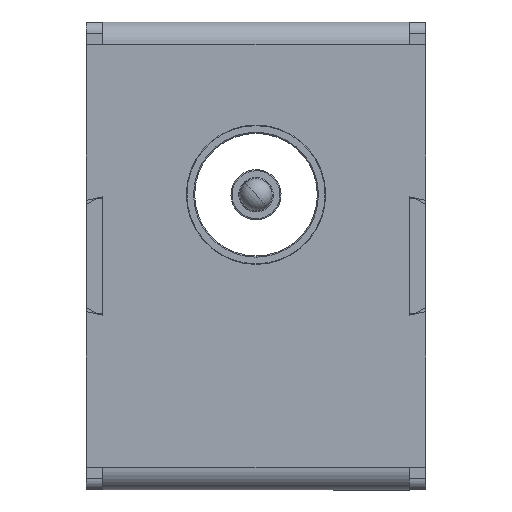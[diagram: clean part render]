
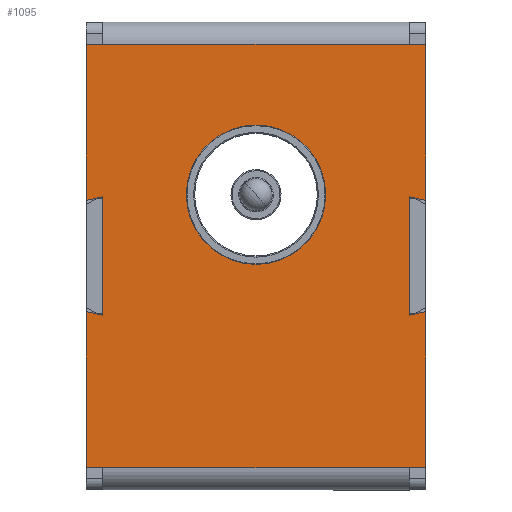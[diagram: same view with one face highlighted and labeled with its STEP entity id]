
A CAD part, left-side view. The second image highlights one B-rep face of the part: STEP entity #1095.
In plain terms, the highlighted planar face has unit normal (-1, 0, 0).
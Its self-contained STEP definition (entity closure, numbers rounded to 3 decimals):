
#7 = AXIS2_PLACEMENT_3D ( 'NONE', #7465, #2080, #4492 ) ;
#26 = VECTOR ( 'NONE', #4473, 1000. ) ;
#55 = DIRECTION ( 'NONE',  ( 0., -0.981, 0.196 ) ) ;
#212 = VECTOR ( 'NONE', #3106, 1000. ) ;
#216 = CARTESIAN_POINT ( 'NONE',  ( -37.307, -4.046, 6.5 ) ) ;
#408 = DIRECTION ( 'NONE',  ( 0., 1., 0. ) ) ;
#417 = VERTEX_POINT ( 'NONE', #7738 ) ;
#422 = EDGE_CURVE ( 'NONE', #417, #2800, #1431, .T. ) ;
#569 = VERTEX_POINT ( 'NONE', #8707 ) ;
#637 = CARTESIAN_POINT ( 'NONE',  ( -37.307, -17.796, -4.3 ) ) ;
#665 = VERTEX_POINT ( 'NONE', #2220 ) ;
#686 = VECTOR ( 'NONE', #2285, 1000. ) ;
#736 = LINE ( 'NONE', #4964, #2722 ) ;
#763 = LINE ( 'NONE', #4679, #3356 ) ;
#826 = CARTESIAN_POINT ( 'NONE',  ( -37.307, -19.296, -4. ) ) ;
#1004 = VECTOR ( 'NONE', #4602, 1000. ) ;
#1026 = CARTESIAN_POINT ( 'NONE',  ( -37.307, -19.296, -18. ) ) ;
#1038 = CARTESIAN_POINT ( 'NONE',  ( -37.307, -4.046, 0.25 ) ) ;
#1095 = ADVANCED_FACE ( 'NONE', ( #3324, #6770 ), #3934, .F. ) ;
#1112 = DIRECTION ( 'NONE',  ( 0., -1., 0. ) ) ;
#1194 = LINE ( 'NONE', #6149, #3797 ) ;
#1289 = ORIENTED_EDGE ( 'NONE', *, *, #7303, .F. ) ;
#1328 = CIRCLE ( 'NONE', #6329, 6.25 ) ;
#1431 = LINE ( 'NONE', #5345, #26 ) ;
#1474 = ORIENTED_EDGE ( 'NONE', *, *, #4226, .T. ) ;
#1481 = VERTEX_POINT ( 'NONE', #1026 ) ;
#1589 = LINE ( 'NONE', #7445, #212 ) ;
#1613 = CARTESIAN_POINT ( 'NONE',  ( -37.307, 11.204, -18. ) ) ;
#1617 = EDGE_CURVE ( 'NONE', #665, #8184, #2740, .T. ) ;
#1685 = CARTESIAN_POINT ( 'NONE',  ( -37.307, -19.296, 6. ) ) ;
#1803 = DIRECTION ( 'NONE',  ( 0., 0.981, 0.196 ) ) ;
#2014 = VERTEX_POINT ( 'NONE', #5195 ) ;
#2052 = ORIENTED_EDGE ( 'NONE', *, *, #5726, .T. ) ;
#2080 = DIRECTION ( 'NONE',  ( -1., 0., 0. ) ) ;
#2220 = CARTESIAN_POINT ( 'NONE',  ( -37.307, -19.296, 20. ) ) ;
#2285 = DIRECTION ( 'NONE',  ( 0., 0., -1. ) ) ;
#2323 = EDGE_CURVE ( 'NONE', #5192, #417, #5656, .T. ) ;
#2449 = ORIENTED_EDGE ( 'NONE', *, *, #4673, .T. ) ;
#2493 = DIRECTION ( 'NONE',  ( 0., 0., 1. ) ) ;
#2495 = ORIENTED_EDGE ( 'NONE', *, *, #1617, .F. ) ;
#2573 = VERTEX_POINT ( 'NONE', #1038 ) ;
#2682 = EDGE_CURVE ( 'NONE', #4668, #1481, #736, .T. ) ;
#2722 = VECTOR ( 'NONE', #3618, 1000. ) ;
#2740 = LINE ( 'NONE', #3360, #8774 ) ;
#2800 = VERTEX_POINT ( 'NONE', #5420 ) ;
#2814 = LINE ( 'NONE', #5825, #7000 ) ;
#2815 = EDGE_CURVE ( 'NONE', #8184, #6511, #763, .T. ) ;
#2818 = DIRECTION ( 'NONE',  ( 0., 0., 1. ) ) ;
#2915 = LINE ( 'NONE', #5322, #8567 ) ;
#2938 = VERTEX_POINT ( 'NONE', #3657 ) ;
#3006 = VERTEX_POINT ( 'NONE', #8014 ) ;
#3106 = DIRECTION ( 'NONE',  ( 0., 0., 1. ) ) ;
#3118 = ORIENTED_EDGE ( 'NONE', *, *, #8401, .T. ) ;
#3234 = VERTEX_POINT ( 'NONE', #8835 ) ;
#3240 = VERTEX_POINT ( 'NONE', #637 ) ;
#3319 = DIRECTION ( 'NONE',  ( 0., 1., 0. ) ) ;
#3324 = FACE_OUTER_BOUND ( 'NONE', #8775, .T. ) ;
#3356 = VECTOR ( 'NONE', #1803, 1000. ) ;
#3360 = CARTESIAN_POINT ( 'NONE',  ( -37.307, -19.296, 20. ) ) ;
#3364 = ORIENTED_EDGE ( 'NONE', *, *, #2682, .F. ) ;
#3383 = AXIS2_PLACEMENT_3D ( 'NONE', #6917, #5561, #8949 ) ;
#3618 = DIRECTION ( 'NONE',  ( 0., 0., -1. ) ) ;
#3643 = EDGE_CURVE ( 'NONE', #9170, #569, #4349, .T. ) ;
#3657 = CARTESIAN_POINT ( 'NONE',  ( -37.307, -17.796, 20. ) ) ;
#3797 = VECTOR ( 'NONE', #3319, 1000. ) ;
#3808 = ORIENTED_EDGE ( 'NONE', *, *, #3643, .F. ) ;
#3885 = CARTESIAN_POINT ( 'NONE',  ( -37.307, 9.704, 6.3 ) ) ;
#3922 = ORIENTED_EDGE ( 'NONE', *, *, #8486, .F. ) ;
#3934 = PLANE ( 'NONE',  #3383 ) ;
#3999 = VECTOR ( 'NONE', #55, 1000. ) ;
#4024 = DIRECTION ( 'NONE',  ( -1., 0., 0. ) ) ;
#4226 = EDGE_CURVE ( 'NONE', #2938, #4323, #8330, .T. ) ;
#4323 = VERTEX_POINT ( 'NONE', #4698 ) ;
#4349 = LINE ( 'NONE', #3885, #8053 ) ;
#4473 = DIRECTION ( 'NONE',  ( 0., -0.981, -0.196 ) ) ;
#4492 = DIRECTION ( 'NONE',  ( 0., 0., 1. ) ) ;
#4602 = DIRECTION ( 'NONE',  ( 0., -1., 0. ) ) ;
#4668 = VERTEX_POINT ( 'NONE', #826 ) ;
#4673 = EDGE_CURVE ( 'NONE', #5192, #2014, #5773, .T. ) ;
#4679 = CARTESIAN_POINT ( 'NONE',  ( -37.307, -17.796, 6.3 ) ) ;
#4698 = CARTESIAN_POINT ( 'NONE',  ( -37.307, 9.704, 20. ) ) ;
#4799 = DIRECTION ( 'NONE',  ( 0., 1., 0. ) ) ;
#4879 = EDGE_CURVE ( 'NONE', #2800, #9170, #6719, .T. ) ;
#4902 = VECTOR ( 'NONE', #2818, 1000. ) ;
#4964 = CARTESIAN_POINT ( 'NONE',  ( -37.307, -19.296, -4. ) ) ;
#4980 = VECTOR ( 'NONE', #4799, 1000. ) ;
#5121 = EDGE_CURVE ( 'NONE', #665, #2938, #6279, .T. ) ;
#5192 = VERTEX_POINT ( 'NONE', #8441 ) ;
#5195 = CARTESIAN_POINT ( 'NONE',  ( -37.307, 9.704, -18. ) ) ;
#5322 = CARTESIAN_POINT ( 'NONE',  ( -37.307, -17.546, -18. ) ) ;
#5345 = CARTESIAN_POINT ( 'NONE',  ( -37.307, 9.704, -4.3 ) ) ;
#5420 = CARTESIAN_POINT ( 'NONE',  ( -37.307, 9.704, -4.3 ) ) ;
#5428 = CARTESIAN_POINT ( 'NONE',  ( -37.307, -17.796, 6.3 ) ) ;
#5485 = CARTESIAN_POINT ( 'NONE',  ( -37.307, -17.796, -4.3 ) ) ;
#5510 = DIRECTION ( 'NONE',  ( 0., 0.981, -0.196 ) ) ;
#5561 = DIRECTION ( 'NONE',  ( 1., 0., 0. ) ) ;
#5656 = LINE ( 'NONE', #1613, #4902 ) ;
#5714 = VECTOR ( 'NONE', #7847, 1000. ) ;
#5726 = EDGE_CURVE ( 'NONE', #4323, #3234, #2814, .T. ) ;
#5733 = CARTESIAN_POINT ( 'NONE',  ( -37.307, -17.546, 20. ) ) ;
#5773 = LINE ( 'NONE', #7124, #1004 ) ;
#5825 = CARTESIAN_POINT ( 'NONE',  ( -37.307, 9.454, 20. ) ) ;
#5846 = CIRCLE ( 'NONE', #7, 6.25 ) ;
#5923 = EDGE_CURVE ( 'NONE', #3006, #2014, #1194, .T. ) ;
#5946 = ORIENTED_EDGE ( 'NONE', *, *, #5121, .T. ) ;
#6149 = CARTESIAN_POINT ( 'NONE',  ( -37.307, 9.454, -18. ) ) ;
#6279 = LINE ( 'NONE', #7319, #4980 ) ;
#6329 = AXIS2_PLACEMENT_3D ( 'NONE', #216, #4024, #2493 ) ;
#6405 = ORIENTED_EDGE ( 'NONE', *, *, #9146, .F. ) ;
#6492 = ORIENTED_EDGE ( 'NONE', *, *, #5923, .F. ) ;
#6511 = VERTEX_POINT ( 'NONE', #8356 ) ;
#6719 = LINE ( 'NONE', #7899, #8090 ) ;
#6737 = CARTESIAN_POINT ( 'NONE',  ( -37.307, 9.704, 6.3 ) ) ;
#6770 = FACE_BOUND ( 'NONE', #7090, .T. ) ;
#6917 = CARTESIAN_POINT ( 'NONE',  ( -37.307, 9.454, 22. ) ) ;
#6942 = DIRECTION ( 'NONE',  ( 0., 0., -1. ) ) ;
#7000 = VECTOR ( 'NONE', #408, 1000. ) ;
#7073 = LINE ( 'NONE', #5428, #686 ) ;
#7090 = EDGE_LOOP ( 'NONE', ( #6405, #9278 ) ) ;
#7124 = CARTESIAN_POINT ( 'NONE',  ( -37.307, 9.454, -18. ) ) ;
#7303 = EDGE_CURVE ( 'NONE', #6511, #3240, #7073, .T. ) ;
#7319 = CARTESIAN_POINT ( 'NONE',  ( -37.307, -17.546, 20. ) ) ;
#7325 = ORIENTED_EDGE ( 'NONE', *, *, #422, .F. ) ;
#7445 = CARTESIAN_POINT ( 'NONE',  ( -37.307, 11.204, 6. ) ) ;
#7465 = CARTESIAN_POINT ( 'NONE',  ( -37.307, -4.046, 6.5 ) ) ;
#7489 = ORIENTED_EDGE ( 'NONE', *, *, #2815, .F. ) ;
#7738 = CARTESIAN_POINT ( 'NONE',  ( -37.307, 11.204, -4. ) ) ;
#7847 = DIRECTION ( 'NONE',  ( 0., 1., 0. ) ) ;
#7899 = CARTESIAN_POINT ( 'NONE',  ( -37.307, 9.704, -4.3 ) ) ;
#8014 = CARTESIAN_POINT ( 'NONE',  ( -37.307, -17.796, -18. ) ) ;
#8053 = VECTOR ( 'NONE', #5510, 1000. ) ;
#8090 = VECTOR ( 'NONE', #8726, 1000. ) ;
#8184 = VERTEX_POINT ( 'NONE', #1685 ) ;
#8229 = LINE ( 'NONE', #5485, #3999 ) ;
#8277 = CARTESIAN_POINT ( 'NONE',  ( -37.307, -4.046, 12.75 ) ) ;
#8330 = LINE ( 'NONE', #5733, #5714 ) ;
#8356 = CARTESIAN_POINT ( 'NONE',  ( -37.307, -17.796, 6.3 ) ) ;
#8401 = EDGE_CURVE ( 'NONE', #3006, #1481, #2915, .T. ) ;
#8441 = CARTESIAN_POINT ( 'NONE',  ( -37.307, 11.204, -18. ) ) ;
#8486 = EDGE_CURVE ( 'NONE', #3240, #4668, #8229, .T. ) ;
#8510 = EDGE_CURVE ( 'NONE', #2573, #8888, #1328, .T. ) ;
#8567 = VECTOR ( 'NONE', #1112, 1000. ) ;
#8570 = EDGE_CURVE ( 'NONE', #569, #3234, #1589, .T. ) ;
#8647 = ORIENTED_EDGE ( 'NONE', *, *, #8570, .F. ) ;
#8707 = CARTESIAN_POINT ( 'NONE',  ( -37.307, 11.204, 6. ) ) ;
#8726 = DIRECTION ( 'NONE',  ( 0., 0., 1. ) ) ;
#8774 = VECTOR ( 'NONE', #6942, 1000. ) ;
#8775 = EDGE_LOOP ( 'NONE', ( #1289, #7489, #2495, #5946, #1474, #2052, #8647, #3808, #8983, #7325, #9394, #2449, #6492, #3118, #3364, #3922 ) ) ;
#8835 = CARTESIAN_POINT ( 'NONE',  ( -37.307, 11.204, 20. ) ) ;
#8888 = VERTEX_POINT ( 'NONE', #8277 ) ;
#8949 = DIRECTION ( 'NONE',  ( 0., 0., -1. ) ) ;
#8983 = ORIENTED_EDGE ( 'NONE', *, *, #4879, .F. ) ;
#9146 = EDGE_CURVE ( 'NONE', #8888, #2573, #5846, .T. ) ;
#9170 = VERTEX_POINT ( 'NONE', #6737 ) ;
#9278 = ORIENTED_EDGE ( 'NONE', *, *, #8510, .F. ) ;
#9394 = ORIENTED_EDGE ( 'NONE', *, *, #2323, .F. ) ;
